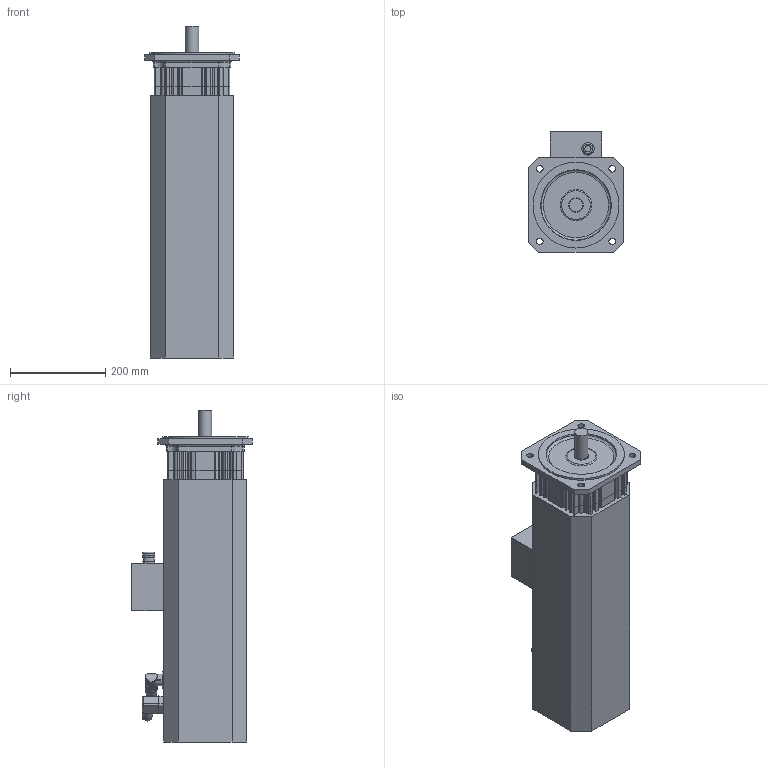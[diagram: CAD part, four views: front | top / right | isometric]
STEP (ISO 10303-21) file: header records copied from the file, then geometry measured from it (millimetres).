
FILE_DESCRIPTION(/* description */ (''),/* implementation_level */ '2;1');
FILE_NAME(/* name */ 'KSA8220_MC_FS_Ix',/* time_stamp */ '2009-03-02T10:22:54+01:00',/* author */ (''),/* organization */ (''),/* preprocessor_version */ 'ST-DEVELOPER v8',/* originating_system */ 'UNIGRAPHICS SOLUTIONS - UNIGRAPHICS 18.0',/* authorisation */ '');
FILE_SCHEMA (('AUTOMOTIVE_DESIGN { 1 2 10303 214 0 1 1 1 }'));
Length unit declared in the file: millimetre
Products named in the file (8): 0280391600_0; Winkelflanschdose_0; 014146_0; 014145_0; Lagersch_8AS_0; 089107X_0; SK3958_0; KSA8412_MC_FS_Ix_0
Assembly tree (7 placements, depth 3):
  KSA8412_MC_FS_Ix_0
    089107X_0
    Lagersch_8AS_0
    SK3958_0
      0280391600_0
    014145_0
    014146_0
    Winkelflanschdose_0
Bounding box: 198 x 253.35 x 696 mm (x, y, z)
Volume: 17866385 mm3; surface area: 733905.8 mm2
Topology: 8 solids, 8 shells, 792 faces, 2199 edges, 1446 vertices
Faces by surface type: cylinder 458, plane 302, torus 16, cone 8, bspline 4, sphere 4
Full cylindrical faces by diameter (mm): 3.2 x1, 3.5 x4, 4.5 x1, 5 x1, 6.5 x4, 10 x1, 13 x2, 14 x4, 16 x1, 17 x1, 20 x3, 21 x1, 21.5 x1, 22.5 x1, 23 x2, 24 x1, 26 x1, 28 x1, 30 x1, 149.6 x2, 151 x1, 180 x1
Entity records: 25928 total; most frequent: CARTESIAN_POINT 5122, DIRECTION 4420, ORIENTED_EDGE 4280, EDGE_CURVE 2140, AXIS2_PLACEMENT_3D 1640, VERTEX_POINT 1435, LINE 1140, VECTOR 1140
